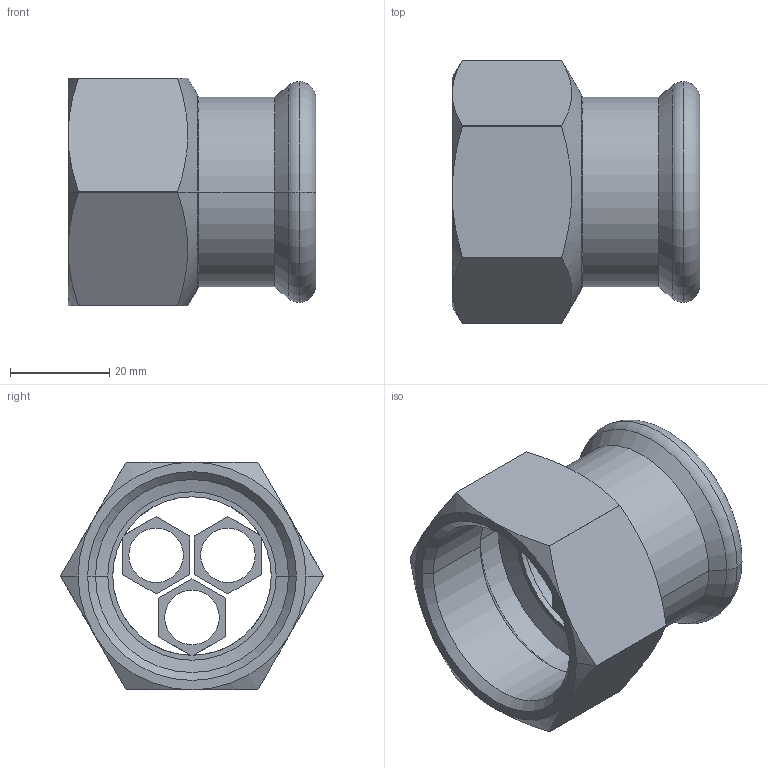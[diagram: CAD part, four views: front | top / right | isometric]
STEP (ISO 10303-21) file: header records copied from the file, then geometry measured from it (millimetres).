
FILE_DESCRIPTION(('OneSpaceDesigner STEP Export'),'2;1');
FILE_NAME('R2702 35xRp1 1-4.pkg.stp','2010-06-08T15:08:25',(''),(''),'OneSpace Designer STEP processor for AP214 (Solid Model)','OneSpace Modeling 15.00A 14-Mar-2007 (C) CoCreate Software GmbH','');
FILE_SCHEMA(('AUTOMOTIVE_DESIGN { 1 0 10303 214 1 1 1 1 }'));
Length unit declared in the file: millimetre
Products named in the file (2): R2702_35xRp5-4
Assembly tree (1 placements, depth 2):
  R2702_35xRp5-4
    R2702_35xRp5-4
Bounding box: 50 x 53.1 x 46 mm (x, y, z)
Volume: 21971.9 mm3; surface area: 15706.7 mm2
Topology: 1 solids, 1 shells, 89 faces, 224 edges, 139 vertices
Faces by surface type: plane 34, cylinder 29, cone 22, torus 4
Entity records: 3155 total; most frequent: CARTESIAN_POINT 1279, ORIENTED_EDGE 448, DIRECTION 291, EDGE_CURVE 224, VERTEX_POINT 139, VECTOR 117, LINE 117, EDGE_LOOP 99
